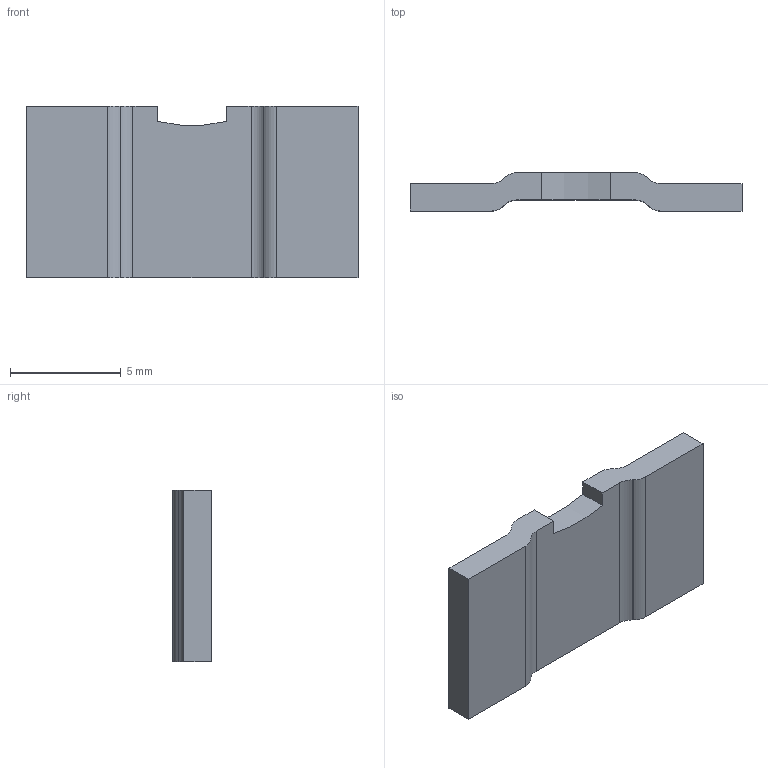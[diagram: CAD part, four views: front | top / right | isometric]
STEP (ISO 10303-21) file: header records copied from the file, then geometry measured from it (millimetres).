
FILE_DESCRIPTION (( 'STEP AP214' ), '1' );
FILE_NAME ('WSLP5931 (0.0002).step', '2018-11-05T16:59:32', ( '' ), ( '' ), 'SwSTEP 2.0', 'SolidWorks 2018', '' );
FILE_SCHEMA (( 'AUTOMOTIVE_DESIGN' ));
Length unit declared in the file: millimetre
Products named in the file (1): WSLP5931 (0.0002)
Bounding box: 15 x 1.73 x 7.75 mm (x, y, z)
Volume: 140.1 mm3; surface area: 289.5 mm2
Topology: 1 solids, 1 shells, 26 faces, 72 edges, 48 vertices
Faces by surface type: plane 17, cylinder 9
Entity records: 868 total; most frequent: CARTESIAN_POINT 147, DIRECTION 144, ORIENTED_EDGE 144, EDGE_CURVE 72, LINE 54, VECTOR 54, VERTEX_POINT 48, AXIS2_PLACEMENT_3D 45
